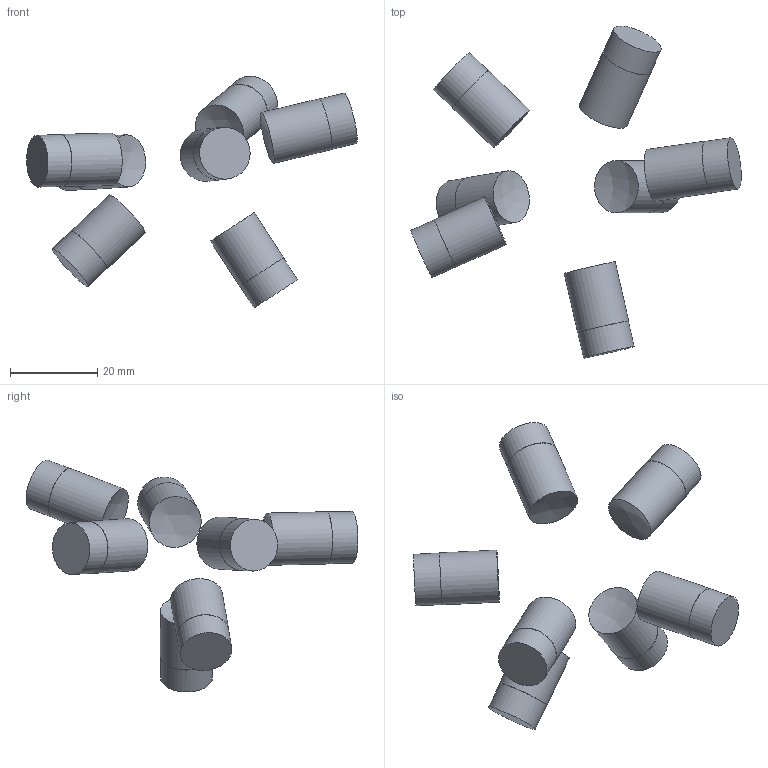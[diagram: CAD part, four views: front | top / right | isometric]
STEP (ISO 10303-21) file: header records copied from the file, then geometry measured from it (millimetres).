
FILE_DESCRIPTION(('Open CASCADE Model'),'2;1');
FILE_NAME('Open CASCADE Shape Model','2026-10-21T12:47:57',('Author'),( 'Open CASCADE'),'Open CASCADE STEP processor 7.9','Open CASCADE 7.9' ,'Unknown');
FILE_SCHEMA(('AUTOMOTIVE_DESIGN { 1 0 10303 214 1 1 1 1 }'));
Length unit declared in the file: millimetre
Products named in the file (1): Open CASCADE STEP translator 7.9 20
Bounding box: 75.92 x 76.23 x 53.24 mm (x, y, z)
Volume: 14744.8 mm3; surface area: 6652.6 mm2
Topology: 6 solids, 6 shells, 34 faces, 47 edges, 32 vertices
Faces by surface type: cylinder 14, plane 14, sphere 6
Full cylindrical faces by diameter (mm): 11.9 x7, 12 x7
Entity records: 1789 total; most frequent: CARTESIAN_POINT 665, DIRECTION 231, ORIENTED_EDGE 98, PCURVE 98, DEFINITIONAL_REPRESENTATION 98, LINE 80, VECTOR 80, AXIS2_PLACEMENT_3D 65
